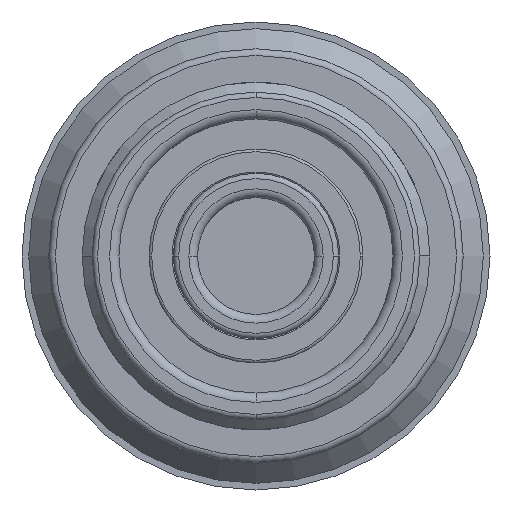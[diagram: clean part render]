
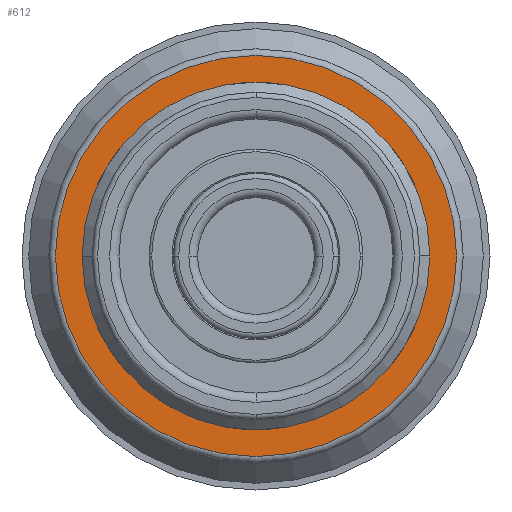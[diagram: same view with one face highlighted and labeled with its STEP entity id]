
A CAD part, front view. The second image highlights one B-rep face of the part: STEP entity #612.
In plain terms, the highlighted planar face has unit normal (0, -1, 0) as drawn and (0, 0, -1) by its records, which use the part's own axes.
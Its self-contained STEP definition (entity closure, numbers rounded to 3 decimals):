
#221=PLANE('',#2882);
#374=FACE_BOUND('',#984,.T.);
#375=FACE_BOUND('',#985,.T.);
#612=ADVANCED_FACE('',(#374,#375),#221,.T.);
#984=EDGE_LOOP('',(#1764));
#985=EDGE_LOOP('',(#1765));
#1215=CIRCLE('',#2878,3.);
#1217=CIRCLE('',#2881,15.);
#1764=ORIENTED_EDGE('',*,*,#2355,.T.);
#1765=ORIENTED_EDGE('',*,*,#2353,.F.);
#2048=VERTEX_POINT('',#4498);
#2050=VERTEX_POINT('',#4503);
#2353=EDGE_CURVE('',#2048,#2048,#1215,.T.);
#2355=EDGE_CURVE('',#2050,#2050,#1217,.T.);
#2878=AXIS2_PLACEMENT_3D('',#4497,#3637,#3638);
#2881=AXIS2_PLACEMENT_3D('',#4502,#3643,#3644);
#2882=AXIS2_PLACEMENT_3D('',#4504,#3645,#3646);
#3637=DIRECTION('',(0.,0.,-1.));
#3638=DIRECTION('',(-1.,0.,0.));
#3643=DIRECTION('',(0.,0.,-1.));
#3644=DIRECTION('',(-1.,0.,0.));
#3645=DIRECTION('',(0.,0.,-1.));
#3646=DIRECTION('',(1.,0.,0.));
#4497=CARTESIAN_POINT('',(0.,0.,-1.7));
#4498=CARTESIAN_POINT('',(-3.,0.,-1.7));
#4502=CARTESIAN_POINT('',(0.,0.,-1.7));
#4503=CARTESIAN_POINT('',(-15.,0.,-1.7));
#4504=CARTESIAN_POINT('',(5.15,0.,-1.7));
